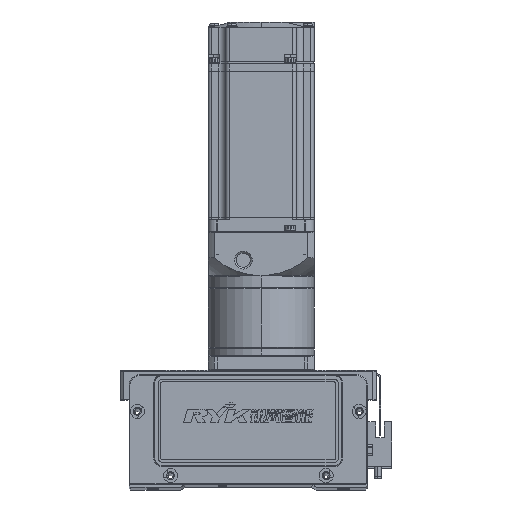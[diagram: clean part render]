
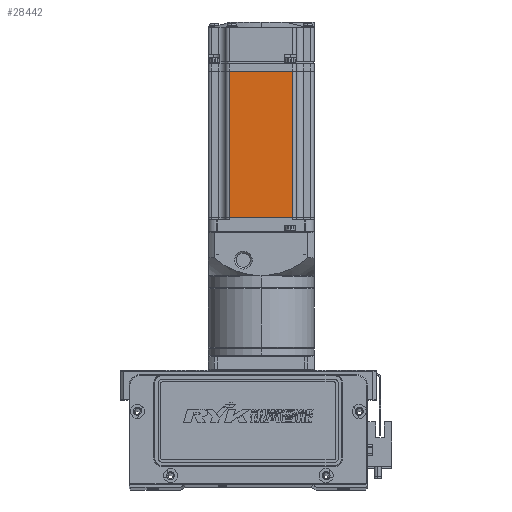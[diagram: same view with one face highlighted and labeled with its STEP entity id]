
A CAD part, top view. The second image highlights one B-rep face of the part: STEP entity #28442.
In plain terms, the highlighted planar face has unit normal (0, 0, 1).
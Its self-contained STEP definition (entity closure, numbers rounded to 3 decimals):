
#2999 = EDGE_LOOP ( 'NONE', ( #5420, #18949, #20044, #48895 ) ) ;
#5420 = ORIENTED_EDGE ( 'NONE', *, *, #49456, .F. ) ;
#5810 = VECTOR ( 'NONE', #45912, 1000. ) ;
#10325 = VERTEX_POINT ( 'NONE', #11580 ) ;
#11580 = CARTESIAN_POINT ( 'NONE',  ( -90.45, -18., 30. ) ) ;
#12373 = CARTESIAN_POINT ( 'NONE',  ( -7.75, 0., 30. ) ) ;
#16469 = LINE ( 'NONE', #45512, #23185 ) ;
#16644 = CARTESIAN_POINT ( 'NONE',  ( -6.5, 18., 30. ) ) ;
#18949 = ORIENTED_EDGE ( 'NONE', *, *, #34870, .T. ) ;
#19213 = VECTOR ( 'NONE', #43677, 1000. ) ;
#19497 = CARTESIAN_POINT ( 'NONE',  ( -7.75, -18., 30. ) ) ;
#20044 = ORIENTED_EDGE ( 'NONE', *, *, #54179, .T. ) ;
#23185 = VECTOR ( 'NONE', #61020, 1000. ) ;
#28144 = LINE ( 'NONE', #51073, #45640 ) ;
#28442 = ADVANCED_FACE ( 'NONE', ( #56223 ), #59944, .T. ) ;
#28983 = CARTESIAN_POINT ( 'NONE',  ( -7.75, 18., 30. ) ) ;
#29865 = VERTEX_POINT ( 'NONE', #19497 ) ;
#31700 = LINE ( 'NONE', #12373, #5810 ) ;
#33417 = LINE ( 'NONE', #16644, #19213 ) ;
#34870 = EDGE_CURVE ( 'NONE', #62181, #50309, #33417, .T. ) ;
#42829 = DIRECTION ( 'NONE',  ( 1., 0., 0. ) ) ;
#43372 = EDGE_CURVE ( 'NONE', #29865, #10325, #16469, .T. ) ;
#43604 = AXIS2_PLACEMENT_3D ( 'NONE', #65093, #54092, #42829 ) ;
#43677 = DIRECTION ( 'NONE',  ( -1., 0., 0. ) ) ;
#45512 = CARTESIAN_POINT ( 'NONE',  ( -6.5, -18., 30. ) ) ;
#45640 = VECTOR ( 'NONE', #51540, 1000. ) ;
#45912 = DIRECTION ( 'NONE',  ( 0., -1., 0. ) ) ;
#48895 = ORIENTED_EDGE ( 'NONE', *, *, #43372, .F. ) ;
#49456 = EDGE_CURVE ( 'NONE', #62181, #29865, #31700, .T. ) ;
#50309 = VERTEX_POINT ( 'NONE', #58321 ) ;
#51073 = CARTESIAN_POINT ( 'NONE',  ( -90.45, 0., 30. ) ) ;
#51540 = DIRECTION ( 'NONE',  ( 0., -1., 0. ) ) ;
#54092 = DIRECTION ( 'NONE',  ( 0., 0., 1. ) ) ;
#54179 = EDGE_CURVE ( 'NONE', #50309, #10325, #28144, .T. ) ;
#56223 = FACE_OUTER_BOUND ( 'NONE', #2999, .T. ) ;
#58321 = CARTESIAN_POINT ( 'NONE',  ( -90.45, 18., 30. ) ) ;
#59944 = PLANE ( 'NONE',  #43604 ) ;
#61020 = DIRECTION ( 'NONE',  ( -1., 0., 0. ) ) ;
#62181 = VERTEX_POINT ( 'NONE', #28983 ) ;
#65093 = CARTESIAN_POINT ( 'NONE',  ( -6.5, -25., 30. ) ) ;
